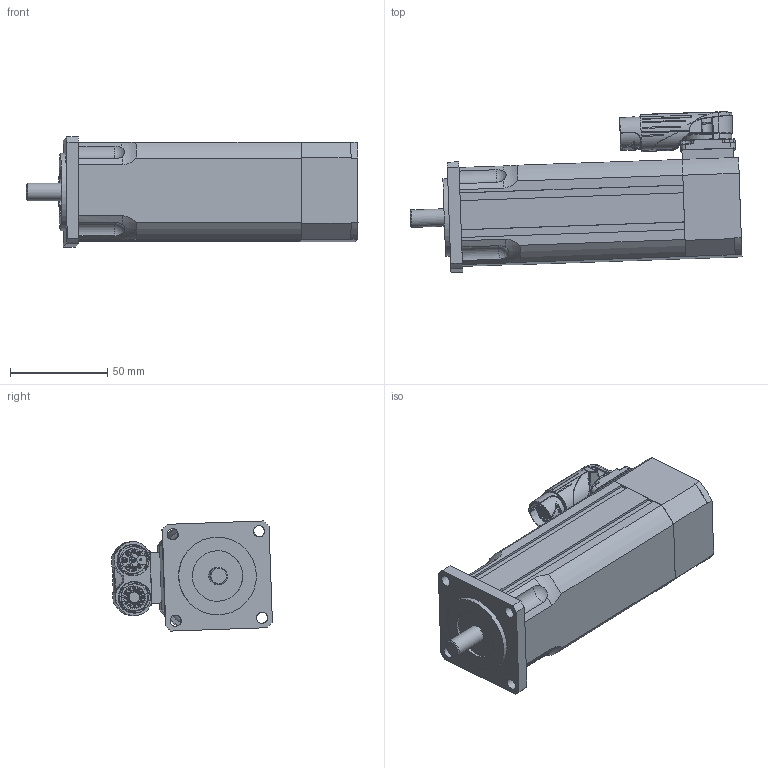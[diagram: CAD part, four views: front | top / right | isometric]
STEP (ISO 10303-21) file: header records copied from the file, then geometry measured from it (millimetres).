
FILE_DESCRIPTION(/* description */ ('Alibre Inc.'),/* implementation_level */ '2;1');
FILE_NAME(/* name */ 'export0',/* time_stamp */ '2011-07-28T09:04:50+02:00',/* author */ (''),/* organization */ (''),/* preprocessor_version */ 'ST-DEVELOPER v12',/* originating_system */ 'Alibre',/* authorisation */ '');
FILE_SCHEMA (('AUTOMOTIVE_DESIGN'));
Length unit declared in the file: millimetre
Products named in the file (4): ID_1
Bounding box: 170.93 x 82.79 x 56.69 mm (x, y, z)
Volume: 385370.6 mm3; surface area: 51347.7 mm2
Topology: 3 solids, 4 shells, 1368 faces, 3360 edges, 2040 vertices
Faces by surface type: bspline 491, plane 364, cylinder 347, torus 86, cone 50, sphere 30
Full cylindrical faces by diameter (mm): 1 x21, 1.5 x1, 1.8 x2, 3.2 x4, 4 x1, 7.5 x1, 8 x1, 9 x1, 11.75 x1, 16.2 x1, 16.95 x1, 17.025 x1, 18.8 x1, 19.8 x1, 20 x1, 22.765 x1, 26 x1, 40 x1
Entity records: 69908 total; most frequent: CARTESIAN_POINT 41497, ORIENTED_EDGE 6282, DIRECTION 4793, EDGE_CURVE 3141, AXIS2_PLACEMENT_3D 2049, VERTEX_POINT 1989, EDGE_LOOP 1586, FACE_BOUND 1586
